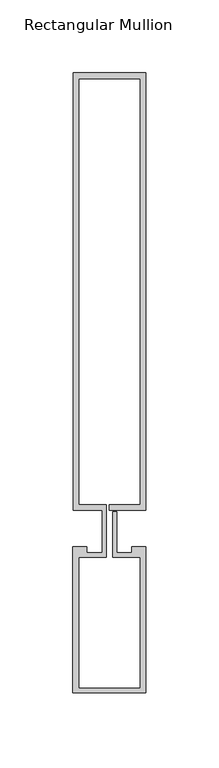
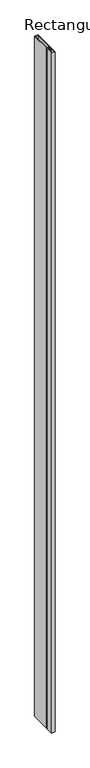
"""IFC4 building model written with IfcOpenShell, lengths in millimetres: member geometry, Rectangular Mullion : Reynaers_CW-50_Mullion-Transom_Vertical_300.5mm_Facecap-02D."""

from ifc_helpers import new_model, si_unit, frame, origin, place, context, project, spatial, polyline, outline, extrude, source, transform, mapped, element, save


def rectangular_mullion_9ba78f65(model_context):
    return source(origin(), model_context, "Body", "SweptSolid", [
        extrude(outline(polyline([(-24.8004059, 313.0), (25.1995941, 313.0), (25.1995941, 12.5), (0.0, 12.5), (0.0, 16.5), (21.1995941, 16.5), (21.1995941, 309.0), (-20.8004059, 309.0), (-20.8004059, 16.5), (-1.9004059, 16.5), (-1.9004059, -19.5), (-20.994845, -19.5), (-20.994845, -109.4191338), (21.1995941, -109.4191338), (21.1995941, -19.5), (2.2995941, -19.5), (2.2995941, 11.5), (5.2995941, 11.5), (5.2995941, -16.5), (15.2996495, -16.5), (15.2996495, -12.5), (25.1995941, -12.5), (25.1995941, -112.5), (-24.994845, -112.5), (-24.994845, -12.5), (-15.2996495, -12.5), (-15.2996495, -16.5), (-4.9004059, -16.5), (-4.9004059, 12.5), (-24.8004059, 12.5), (-24.8004059, 313.0)])), frame((0.0, 0.0, -10400.0), z_axis=(0.0, 0.0, 1.0), x_axis=(1.0, 0.0, 0.0)), (0.0, 0.0, 1.0), 10400.0),
    ])


if __name__ == "__main__":
    model = new_model("IFC4")
    model_context = context("Model", 3, world=origin())
    ifc_project = project(units=[si_unit("LENGTHUNIT", "METRE", prefix="MILLI")], contexts=[model_context])
    site = spatial("IfcSite", under=ifc_project)
    building = spatial("IfcBuilding", under=site)
    placement = place(None, origin())
    rectangular_mullion_shape = rectangular_mullion_9ba78f65(model_context)
    element("IfcMember", 1, ObjectType="Rectangular Mullion : Reynaers_CW-50_Mullion-Transom_Vertical_300.5mm_Facecap-02D", at=placement, inside=building, context=model_context, shape_type="MappedRepresentation", body=[
        mapped(rectangular_mullion_shape, transform((0.0, 0.0, 0.0), x_axis=(1.0, 0.0, 0.0), y_axis=(0.0, 1.0, 0.0), z_axis=(0.0, 0.0, 1.0))),
    ])
    save(model, "model.ifc")
